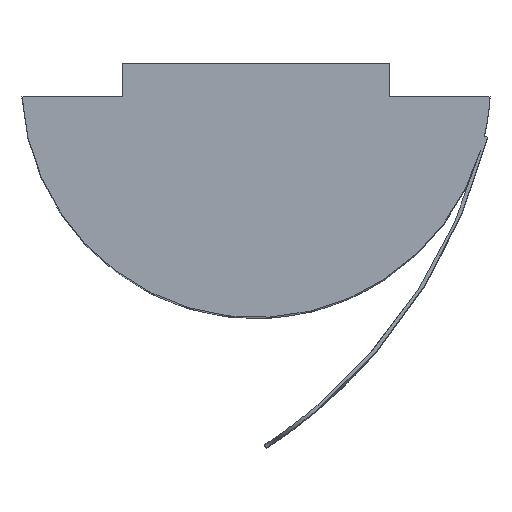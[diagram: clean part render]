
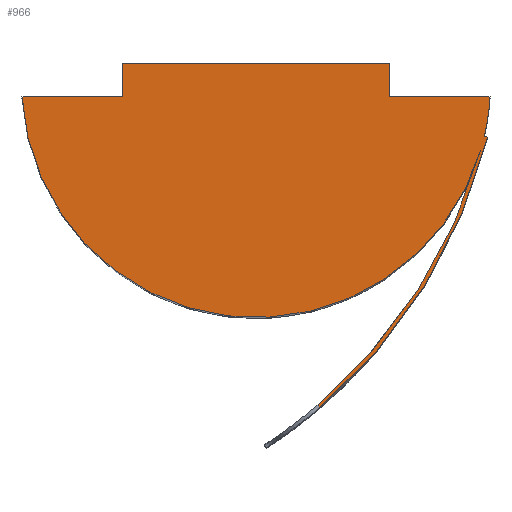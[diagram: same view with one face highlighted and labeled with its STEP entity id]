
A CAD part, top view. The second image highlights one B-rep face of the part: STEP entity #966.
In plain terms, the highlighted planar face has unit normal (0, 0, 1).
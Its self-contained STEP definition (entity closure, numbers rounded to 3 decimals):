
#184=CARTESIAN_POINT('',(-4.0,0.975,20.0));
#185=VERTEX_POINT('',#184);
#186=CARTESIAN_POINT('',(4.0,0.975,20.0));
#187=VERTEX_POINT('',#186);
#188=CARTESIAN_POINT('',(-4.0,0.975,20.0));
#189=DIRECTION('',(1.0,0.0,0.0));
#190=VECTOR('',#189,8.0);
#191=LINE('',#188,#190);
#192=EDGE_CURVE('',#185,#187,#191,.T.);
#370=CARTESIAN_POINT('',(1.857,-9.229,20.0));
#371=VERTEX_POINT('',#370);
#391=CARTESIAN_POINT('',(6.717,-1.624,20.0));
#392=VERTEX_POINT('',#391);
#393=CARTESIAN_POINT('',(-8.233,2.576,20.0));
#394=DIRECTION('',(0.0,0.0,-1.0));
#395=DIRECTION('',(-0.546,0.838,0.0));
#396=AXIS2_PLACEMENT_3D('',#393,#394,#395);
#397=CIRCLE('',#396,15.53);
#398=EDGE_CURVE('',#392,#371,#397,.T.);
#592=CARTESIAN_POINT('',(1.912,-9.314,20.0));
#593=VERTEX_POINT('',#592);
#613=CARTESIAN_POINT('',(1.912,-9.314,20.0));
#614=DIRECTION('',(-0.546,0.838,0.0));
#615=VECTOR('',#614,0.101);
#616=LINE('',#613,#615);
#617=EDGE_CURVE('',#593,#371,#616,.T.);
#699=CARTESIAN_POINT('',(6.927,-1.227,20.0));
#700=VERTEX_POINT('',#699);
#707=CARTESIAN_POINT('',(-8.233,2.576,20.0));
#708=DIRECTION('',(0.0,0.0,1.));
#709=DIRECTION('',(0.546,-0.838,0.0));
#710=AXIS2_PLACEMENT_3D('',#707,#708,#709);
#711=CIRCLE('',#710,15.63);
#712=EDGE_CURVE('',#593,#700,#711,.T.);
#736=CARTESIAN_POINT('',(6.83,-1.202,20.0));
#737=VERTEX_POINT('',#736);
#744=CARTESIAN_POINT('',(6.927,-1.227,20.0));
#745=DIRECTION('',(-0.97,0.243,0.0));
#746=VECTOR('',#745,0.1);
#747=LINE('',#744,#746);
#748=EDGE_CURVE('',#700,#737,#747,.T.);
#819=CARTESIAN_POINT('',(-7.,-0.025,20.0));
#820=VERTEX_POINT('',#819);
#821=CARTESIAN_POINT('',(0.0,0.387,20.0));
#822=DIRECTION('',(0.0,0.0,-1.));
#823=DIRECTION('',(-0.998,-0.059,0.0));
#824=AXIS2_PLACEMENT_3D('',#821,#822,#823);
#825=CIRCLE('',#824,7.012);
#826=EDGE_CURVE('',#392,#820,#825,.T.);
#848=CARTESIAN_POINT('',(7.,-0.025,20.0));
#849=VERTEX_POINT('',#848);
#856=CARTESIAN_POINT('',(0.0,0.387,20.0));
#857=DIRECTION('',(0.0,0.0,-1.));
#858=DIRECTION('',(-0.998,-0.059,0.0));
#859=AXIS2_PLACEMENT_3D('',#856,#857,#858);
#860=CIRCLE('',#859,7.012);
#861=EDGE_CURVE('',#849,#737,#860,.T.);
#871=CARTESIAN_POINT('',(4.0,-0.025,20.0));
#872=VERTEX_POINT('',#871);
#879=CARTESIAN_POINT('',(4.0,-0.025,20.0));
#880=DIRECTION('',(1.0,0.0,0.0));
#881=VECTOR('',#880,3.);
#882=LINE('',#879,#881);
#883=EDGE_CURVE('',#872,#849,#882,.T.);
#895=CARTESIAN_POINT('',(-4.0,-0.025,20.0));
#896=VERTEX_POINT('',#895);
#905=CARTESIAN_POINT('',(-7.,-0.025,20.0));
#906=DIRECTION('',(1.0,0.0,0.0));
#907=VECTOR('',#906,3.);
#908=LINE('',#905,#907);
#909=EDGE_CURVE('',#820,#896,#908,.T.);
#919=CARTESIAN_POINT('',(-4.0,-0.025,20.0));
#920=DIRECTION('',(0.0,1.0,0.0));
#921=VECTOR('',#920,1.);
#922=LINE('',#919,#921);
#923=EDGE_CURVE('',#896,#185,#922,.T.);
#936=CARTESIAN_POINT('',(4.0,0.975,20.0));
#937=DIRECTION('',(0.0,-1.0,0.0));
#938=VECTOR('',#937,1.);
#939=LINE('',#936,#938);
#940=EDGE_CURVE('',#187,#872,#939,.T.);
#948=CARTESIAN_POINT('',(0.0,0.475,20.0));
#949=DIRECTION('',(0.0,0.0,1.0));
#950=DIRECTION('',(1.0,0.0,0.0));
#951=AXIS2_PLACEMENT_3D('',#948,#949,#950);
#952=PLANE('',#951);
#953=ORIENTED_EDGE('',*,*,#617,.F.);
#954=ORIENTED_EDGE('',*,*,#712,.T.);
#955=ORIENTED_EDGE('',*,*,#748,.T.);
#956=ORIENTED_EDGE('',*,*,#861,.F.);
#957=ORIENTED_EDGE('',*,*,#883,.F.);
#958=ORIENTED_EDGE('',*,*,#940,.F.);
#959=ORIENTED_EDGE('',*,*,#192,.F.);
#960=ORIENTED_EDGE('',*,*,#923,.F.);
#961=ORIENTED_EDGE('',*,*,#909,.F.);
#962=ORIENTED_EDGE('',*,*,#826,.F.);
#963=ORIENTED_EDGE('',*,*,#398,.T.);
#964=EDGE_LOOP('',(#953,#954,#955,#956,#957,#958,#959,#960,#961,#962,#963));
#965=FACE_OUTER_BOUND('',#964,.T.);
#966=ADVANCED_FACE('',(#965),#952,.T.);
